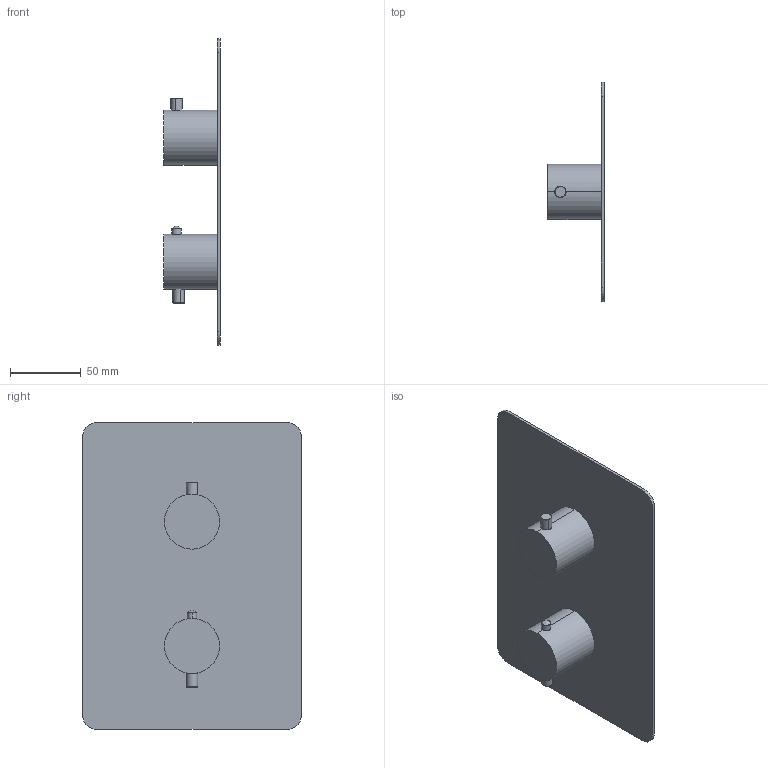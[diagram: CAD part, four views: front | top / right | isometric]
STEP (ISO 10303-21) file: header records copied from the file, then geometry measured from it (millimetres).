
FILE_DESCRIPTION (( 'STEP AP214' ), '1' );
FILE_NAME ('96260510 x architetti.STEP', '2025-01-15T11:02:01', ( '' ), ( '' ), 'SwSTEP 2.0', 'SolidWorks 2020', '' );
FILE_SCHEMA (( 'AUTOMOTIVE_DESIGN' ));
Length unit declared in the file: millimetre
Products named in the file (1): 96260510 x architetti
Bounding box: 40 x 155 x 217 mm (x, y, z)
Volume: 158772.5 mm3; surface area: 78670.3 mm2
Topology: 1 solids, 3 shells, 42 faces, 100 edges, 62 vertices
Faces by surface type: cylinder 21, plane 10, torus 4, cone 4, bspline 3
Entity records: 1928 total; most frequent: CARTESIAN_POINT 559, DIRECTION 198, ORIENTED_EDGE 192, EDGE_CURVE 96, AXIS2_PLACEMENT_3D 80, VERTEX_POINT 62, EDGE_LOOP 44, ADVANCED_FACE 42
